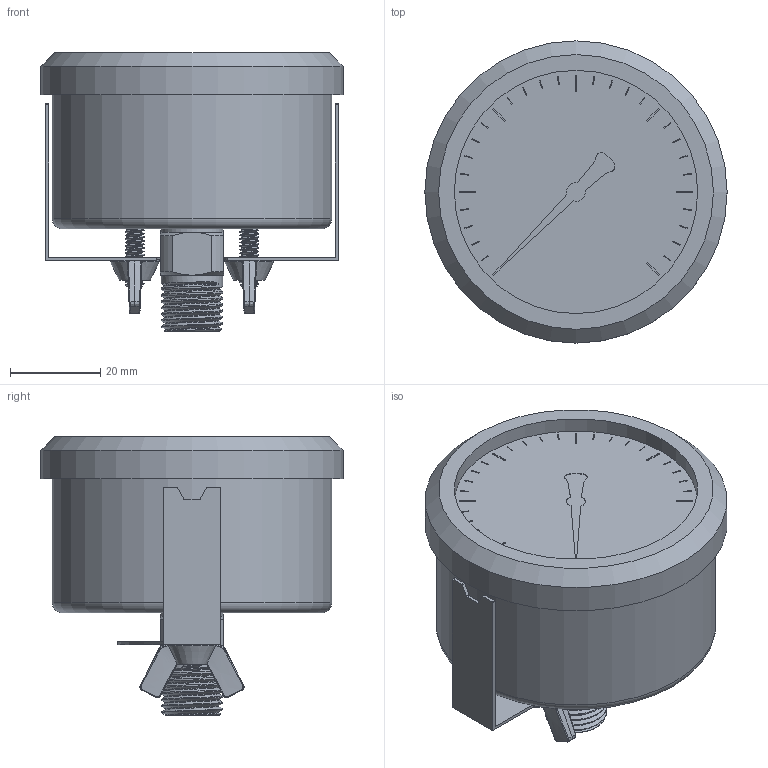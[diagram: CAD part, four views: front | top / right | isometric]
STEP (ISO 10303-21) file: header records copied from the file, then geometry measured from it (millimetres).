
FILE_DESCRIPTION(/* description */ (''),/* implementation_level */ '2;1');
FILE_NAME(/* name */ 'P:\Drawings, Sketches\Stephen Sketches\PCS Gauges\Assemblies\.stp files\40282 - PC25 U-CLAMP.stp',/* time_stamp */ '2023-08-15T14:59:47-05:00',/* author */ ('stephen'),/* organization */ (''),/* preprocessor_version */ 'ST-DEVELOPER v18.1',/* originating_system */ 'Autodesk Inventor 2022',/* authorisation */ '');
FILE_SCHEMA (('AUTOMOTIVE_DESIGN { 1 0 10303 214 3 1 1 }'));
Length unit declared in the file: inch
Products named in the file (8): 2.5 U-Clamp KPCh63-3rm_G1-4; KPCh63-3rm_G1-4 U Clamp; .25 ftg; 2.5 bezel; 2.5in dial; 8-32 stud bolt; 2.5 in U-Clamp; 8-32  Wing Nut
Assembly tree (9 placements, depth 2):
  2.5 U-Clamp KPCh63-3rm_G1-4
    KPCh63-3rm_G1-4 U Clamp
    .25 ftg
    2.5 bezel
    2.5in dial
    8-32 stud bolt  x2
    2.5 in U-Clamp
    8-32  Wing Nut  x2
Bounding box: 67.06 x 67.06 x 61.88 mm (x, y, z)
Volume: 121165 mm3; surface area: 31743.9 mm2
Topology: 9 solids, 10 shells, 502 faces, 1262 edges, 820 vertices
Faces by surface type: plane 220, cylinder 132, bspline 117, cone 22, sphere 8, torus 3
Full cylindrical faces by diameter (mm): 0.254 x3, 2.5 x2, 3.134 x32, 4.166 x36, 4.572 x2, 13.716 x6, 13.9 x1, 53.975 x1, 54 x1, 54.864 x1, 62 x1, 62.23 x1, 67.056 x1
Entity records: 23510 total; most frequent: CARTESIAN_POINT 14337, ORIENTED_EDGE 1914, DIRECTION 1576, EDGE_CURVE 957, VERTEX_POINT 625, LINE 544, VECTOR 544, AXIS2_PLACEMENT_3D 516
